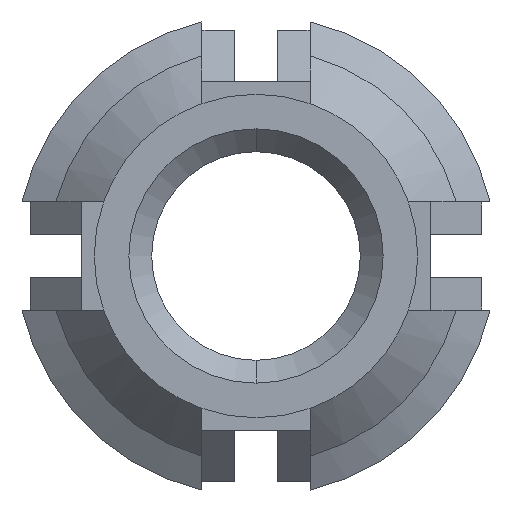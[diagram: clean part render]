
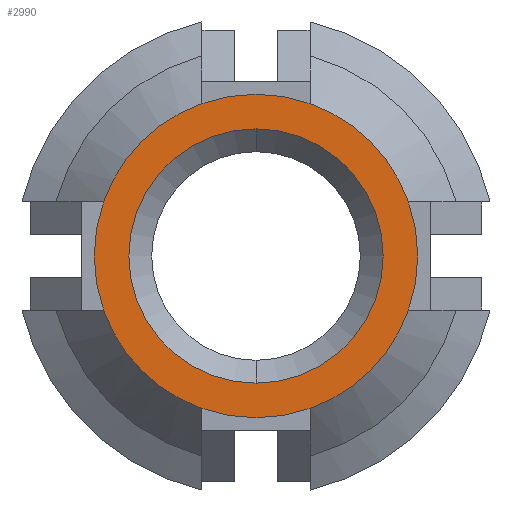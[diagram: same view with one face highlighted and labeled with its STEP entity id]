
A CAD part, front view. The second image highlights one B-rep face of the part: STEP entity #2990.
In plain terms, the highlighted planar face has unit normal (0, -1, 0).
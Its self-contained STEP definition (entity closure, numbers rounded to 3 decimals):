
#154 = CARTESIAN_POINT ( 'NONE',  ( -1.25, -7.874, -3.527 ) ) ;
#208 = VERTEX_POINT ( 'NONE', #3489 ) ;
#209 = FACE_OUTER_BOUND ( 'NONE', #3064, .T. ) ;
#237 = AXIS2_PLACEMENT_3D ( 'NONE', #1726, #2734, #3670 ) ;
#341 = EDGE_CURVE ( 'NONE', #2097, #921, #2500, .T. ) ;
#368 = DIRECTION ( 'NONE',  ( 0., 0., 1. ) ) ;
#371 = DIRECTION ( 'NONE',  ( -1., 0., 0. ) ) ;
#452 = EDGE_LOOP ( 'NONE', ( #1725, #2041 ) ) ;
#601 = DIRECTION ( 'NONE',  ( 0., 1., 0. ) ) ;
#620 = DIRECTION ( 'NONE',  ( 0., 0., 1. ) ) ;
#651 = DIRECTION ( 'NONE',  ( 0., 0., 1. ) ) ;
#669 = DIRECTION ( 'NONE',  ( 0., 0., 1. ) ) ;
#776 = ORIENTED_EDGE ( 'NONE', *, *, #341, .T. ) ;
#815 = CARTESIAN_POINT ( 'NONE',  ( 0., -7.874, 0. ) ) ;
#828 = DIRECTION ( 'NONE',  ( 0., 1., 0. ) ) ;
#832 = CARTESIAN_POINT ( 'NONE',  ( 3.527, -7.874, -1.25 ) ) ;
#921 = VERTEX_POINT ( 'NONE', #3019 ) ;
#922 = DIRECTION ( 'NONE',  ( 0., 0., 1. ) ) ;
#937 = CARTESIAN_POINT ( 'NONE',  ( 0., -7.874, 0. ) ) ;
#958 = AXIS2_PLACEMENT_3D ( 'NONE', #815, #1145, #2052 ) ;
#960 = CARTESIAN_POINT ( 'NONE',  ( 0., -7.874, 0. ) ) ;
#986 = ORIENTED_EDGE ( 'NONE', *, *, #1688, .T. ) ;
#1030 = VERTEX_POINT ( 'NONE', #3079 ) ;
#1145 = DIRECTION ( 'NONE',  ( 0., -1., 0. ) ) ;
#1210 = DIRECTION ( 'NONE',  ( 0., -1., 0. ) ) ;
#1229 = CARTESIAN_POINT ( 'NONE',  ( 0., -7.874, 0. ) ) ;
#1236 = AXIS2_PLACEMENT_3D ( 'NONE', #1678, #2930, #1383 ) ;
#1294 = ORIENTED_EDGE ( 'NONE', *, *, #2096, .T. ) ;
#1333 = CIRCLE ( 'NONE', #237, 3.742 ) ;
#1360 = DIRECTION ( 'NONE',  ( 0., -1., 0. ) ) ;
#1383 = DIRECTION ( 'NONE',  ( 0., 0., 1. ) ) ;
#1483 = CIRCLE ( 'NONE', #2334, 3.742 ) ;
#1517 = ORIENTED_EDGE ( 'NONE', *, *, #2233, .T. ) ;
#1524 = EDGE_CURVE ( 'NONE', #1916, #1607, #1333, .T. ) ;
#1542 = AXIS2_PLACEMENT_3D ( 'NONE', #1919, #1360, #368 ) ;
#1586 = VERTEX_POINT ( 'NONE', #3627 ) ;
#1607 = VERTEX_POINT ( 'NONE', #2998 ) ;
#1635 = CARTESIAN_POINT ( 'NONE',  ( 0., -7.874, 0. ) ) ;
#1678 = CARTESIAN_POINT ( 'NONE',  ( 0., -7.874, 0. ) ) ;
#1688 = EDGE_CURVE ( 'NONE', #1791, #208, #1804, .T. ) ;
#1707 = EDGE_CURVE ( 'NONE', #3654, #1791, #1483, .T. ) ;
#1718 = AXIS2_PLACEMENT_3D ( 'NONE', #937, #2768, #651 ) ;
#1725 = ORIENTED_EDGE ( 'NONE', *, *, #3412, .T. ) ;
#1726 = CARTESIAN_POINT ( 'NONE',  ( 0., -7.874, 0. ) ) ;
#1766 = ORIENTED_EDGE ( 'NONE', *, *, #1524, .T. ) ;
#1791 = VERTEX_POINT ( 'NONE', #154 ) ;
#1804 = CIRCLE ( 'NONE', #2655, 3.742 ) ;
#1882 = EDGE_CURVE ( 'NONE', #1607, #1030, #2267, .T. ) ;
#1885 = DIRECTION ( 'NONE',  ( 0., -1., 0. ) ) ;
#1911 = CIRCLE ( 'NONE', #1718, 3.742 ) ;
#1916 = VERTEX_POINT ( 'NONE', #832 ) ;
#1919 = CARTESIAN_POINT ( 'NONE',  ( 0., -7.874, 0. ) ) ;
#1927 = AXIS2_PLACEMENT_3D ( 'NONE', #1635, #2563, #669 ) ;
#1955 = EDGE_CURVE ( 'NONE', #1030, #2097, #2058, .T. ) ;
#2041 = ORIENTED_EDGE ( 'NONE', *, *, #2171, .T. ) ;
#2052 = DIRECTION ( 'NONE',  ( 1., 0., 0. ) ) ;
#2058 = CIRCLE ( 'NONE', #958, 3.742 ) ;
#2096 = EDGE_CURVE ( 'NONE', #208, #1916, #1911, .T. ) ;
#2097 = VERTEX_POINT ( 'NONE', #2466 ) ;
#2149 = CIRCLE ( 'NONE', #1927, 2.942 ) ;
#2168 = ORIENTED_EDGE ( 'NONE', *, *, #1707, .T. ) ;
#2171 = EDGE_CURVE ( 'NONE', #3794, #1586, #2149, .T. ) ;
#2233 = EDGE_CURVE ( 'NONE', #921, #3654, #3889, .T. ) ;
#2267 = CIRCLE ( 'NONE', #1236, 3.742 ) ;
#2294 = AXIS2_PLACEMENT_3D ( 'NONE', #2622, #2969, #2582 ) ;
#2334 = AXIS2_PLACEMENT_3D ( 'NONE', #960, #1210, #922 ) ;
#2386 = ORIENTED_EDGE ( 'NONE', *, *, #1882, .T. ) ;
#2425 = CARTESIAN_POINT ( 'NONE',  ( 0., -7.874, 2.942 ) ) ;
#2466 = CARTESIAN_POINT ( 'NONE',  ( -1.25, -7.874, 3.527 ) ) ;
#2473 = ORIENTED_EDGE ( 'NONE', *, *, #1955, .T. ) ;
#2500 = CIRCLE ( 'NONE', #2294, 3.742 ) ;
#2533 = CIRCLE ( 'NONE', #3962, 2.942 ) ;
#2563 = DIRECTION ( 'NONE',  ( 0., 1., 0. ) ) ;
#2582 = DIRECTION ( 'NONE',  ( 0., 0., 1. ) ) ;
#2622 = CARTESIAN_POINT ( 'NONE',  ( 0., -7.874, 0. ) ) ;
#2655 = AXIS2_PLACEMENT_3D ( 'NONE', #1229, #1885, #371 ) ;
#2660 = FACE_BOUND ( 'NONE', #452, .T. ) ;
#2712 = CARTESIAN_POINT ( 'NONE',  ( 0., -7.874, 0. ) ) ;
#2734 = DIRECTION ( 'NONE',  ( 0., -1., 0. ) ) ;
#2768 = DIRECTION ( 'NONE',  ( 0., -1., 0. ) ) ;
#2788 = AXIS2_PLACEMENT_3D ( 'NONE', #3617, #828, #3943 ) ;
#2930 = DIRECTION ( 'NONE',  ( 0., -1., 0. ) ) ;
#2969 = DIRECTION ( 'NONE',  ( 0., -1., 0. ) ) ;
#2990 = ADVANCED_FACE ( 'NONE', ( #2660, #209 ), #3027, .F. ) ;
#2998 = CARTESIAN_POINT ( 'NONE',  ( 3.527, -7.874, 1.25 ) ) ;
#3019 = CARTESIAN_POINT ( 'NONE',  ( -3.527, -7.874, 1.25 ) ) ;
#3027 = PLANE ( 'NONE',  #2788 ) ;
#3064 = EDGE_LOOP ( 'NONE', ( #1517, #2168, #986, #1294, #1766, #2386, #2473, #776 ) ) ;
#3079 = CARTESIAN_POINT ( 'NONE',  ( 1.25, -7.874, 3.527 ) ) ;
#3412 = EDGE_CURVE ( 'NONE', #1586, #3794, #2533, .T. ) ;
#3489 = CARTESIAN_POINT ( 'NONE',  ( 1.25, -7.874, -3.527 ) ) ;
#3586 = CARTESIAN_POINT ( 'NONE',  ( -3.527, -7.874, -1.25 ) ) ;
#3617 = CARTESIAN_POINT ( 'NONE',  ( 0., -7.874, 0. ) ) ;
#3627 = CARTESIAN_POINT ( 'NONE',  ( 0., -7.874, -2.942 ) ) ;
#3654 = VERTEX_POINT ( 'NONE', #3586 ) ;
#3670 = DIRECTION ( 'NONE',  ( 0., 0., -1. ) ) ;
#3794 = VERTEX_POINT ( 'NONE', #2425 ) ;
#3889 = CIRCLE ( 'NONE', #1542, 3.742 ) ;
#3943 = DIRECTION ( 'NONE',  ( 0., 0., 1. ) ) ;
#3962 = AXIS2_PLACEMENT_3D ( 'NONE', #2712, #601, #620 ) ;
